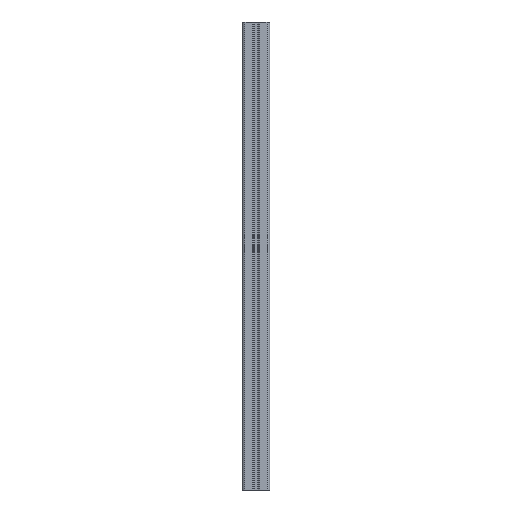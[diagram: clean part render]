
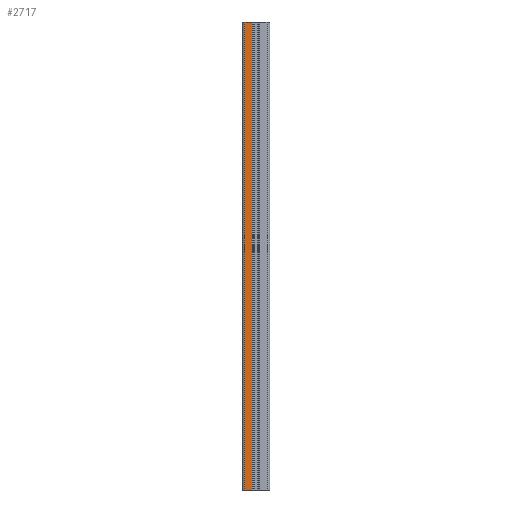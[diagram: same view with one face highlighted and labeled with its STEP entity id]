
A CAD part, front view. The second image highlights one B-rep face of the part: STEP entity #2717.
In plain terms, the highlighted planar face has unit normal (0, -1, 0).
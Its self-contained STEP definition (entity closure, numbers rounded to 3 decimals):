
#2109=VERTEX_POINT('',#4995);
#2199=EDGE_CURVE('',#4011,#4207,#5105,.T.);
#2717=ADVANCED_FACE('',(#5666),#5667,.T.);
#2941=VERTEX_POINT('',#5909);
#3277=EDGE_CURVE('',#4207,#2109,#6264,.T.);
#3547=EDGE_CURVE('',#2109,#2941,#6574,.T.);
#4011=VERTEX_POINT('',#7074);
#4075=EDGE_CURVE('',#4011,#2941,#7142,.T.);
#4207=VERTEX_POINT('',#7286);
#4995=CARTESIAN_POINT('',(14.5,0.0,680.0));
#5105=LINE('',#8479,#8480);
#5666=FACE_OUTER_BOUND('',#9231,.T.);
#5667=PLANE('',#9232);
#5909=CARTESIAN_POINT('',(4.0,0.0,680.0));
#6264=LINE('',#10072,#10073);
#6574=LINE('',#10475,#10476);
#7074=CARTESIAN_POINT('',(4.0,0.0,0.0));
#7142=LINE('',#11270,#11271);
#7286=CARTESIAN_POINT('',(14.5,0.0,0.0));
#8479=CARTESIAN_POINT('',(4.0,0.0,0.0));
#8480=VECTOR('',#12634,1.0);
#9231=EDGE_LOOP('',(#13195,#13196,#13197,#13198));
#9232=AXIS2_PLACEMENT_3D('',#13199,#13200,#13201);
#10072=CARTESIAN_POINT('',(14.5,0.0,0.0));
#10073=VECTOR('',#13764,1.0);
#10475=CARTESIAN_POINT('',(4.0,0.0,680.0));
#10476=VECTOR('',#14361,1.0);
#11270=CARTESIAN_POINT('',(4.0,0.0,0.0));
#11271=VECTOR('',#14942,1.0);
#12634=DIRECTION('',(1.0,0.0,0.0));
#13195=ORIENTED_EDGE('',*,*,#3277,.T.);
#13196=ORIENTED_EDGE('',*,*,#3547,.T.);
#13197=ORIENTED_EDGE('',*,*,#4075,.F.);
#13198=ORIENTED_EDGE('',*,*,#2199,.T.);
#13199=CARTESIAN_POINT('',(36.0,0.0,0.0));
#13200=DIRECTION('',(0.0,-1.0,0.0));
#13201=DIRECTION('',(1.0,0.0,0.0));
#13764=DIRECTION('',(0.0,0.0,1.0));
#14361=DIRECTION('',(-1.0,-0.0,-0.0));
#14942=DIRECTION('',(0.0,0.0,1.0));
